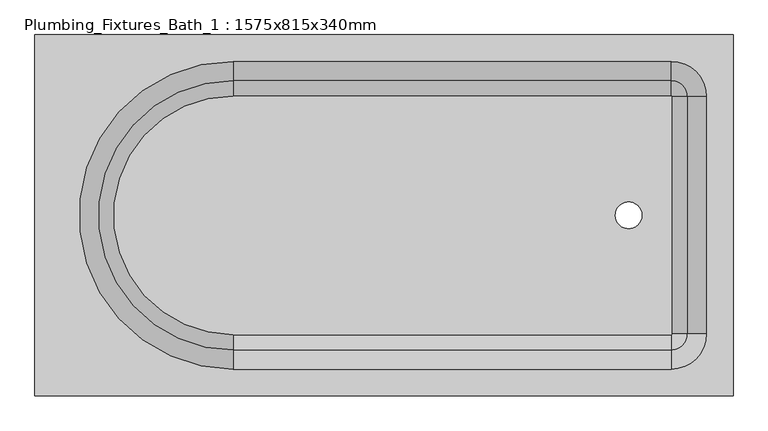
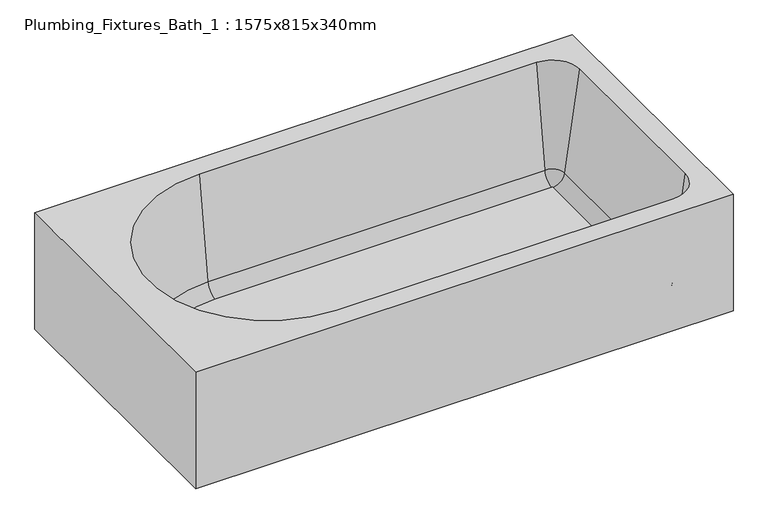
"""IFC4 building model written with IfcOpenShell, lengths in millimetres: flow terminal geometry, Plumbing_Fixtures_Bath_1 : 1575x815x340mm."""

from ifc_helpers import new_model, si_unit, point, frame, origin, place, context, project, spatial, polyline, circle_curve, ellipse_curve, trimmed, source, transform, mapped, element, save
from ifc_brep_helpers import plane_surface, revolved_surface, advanced_brep


def plumbing_fixtures_bath_1_1575x815x340mm_1df68492(model_context):
    return source(origin(), model_context, "Body", "AdvancedBrep", [
        advanced_brep(
        [(-340.0, 269.6255814, 20.0), (-340.0, -269.6255814, 20.0), (647.5, -269.6255814, 20.0), (649.6255814, -267.5, 20.0), (649.6255814, 267.5, 20.0), (647.5, 269.6255814, 20.0), (581.8337909, 0.0, 20.0), (521.8337909, 0.0, 20.0), (787.5, 407.5, 0.0), (787.5, -407.5, 0.0), (-787.5, -407.5, 0.0), (-787.5, 407.5, 0.0), (521.8337909, 0.0, 0.0), (581.8337909, 0.0, 0.0), (-787.5, 407.5, 360.0), (787.5, 407.5, 360.0), (-787.5, -407.5, 360.0), (787.5, -407.5, 360.0), (-340.0, -347.5, 360.0), (-340.0, 347.5, 360.0), (647.5, 347.5, 360.0), (727.5, 267.5, 360.0), (727.5, -267.5, 360.0), (647.5, -347.5, 360.0), (-340.0, -304.3563387, 53.0168987), (-340.0, 304.3563387, 53.0168987), (647.5, -304.3563387, 53.0168987), (684.3563387, -267.5, 53.0168987), (684.3563387, 267.5, 53.0168987), (647.5, 304.3563387, 53.0168987)],
        [
            (0, 1, circle_curve(frame((-340.0, 0.0, 20.0), z_axis=(0.0, 0.0, 1.0), x_axis=(0.0, 1.0, 0.0)), 269.6255814)),
            (1, 2),
            (2, 3, circle_curve(frame((647.5, -267.5, 20.0), z_axis=(0.0, 0.0, 1.0), x_axis=(0.0, -1.0, 0.0)), 2.1255814)),
            (3, 4),
            (4, 5, circle_curve(frame((647.5, 267.5, 20.0), z_axis=(0.0, 0.0, 1.0), x_axis=(1.0, 0.0, 0.0)), 2.1255814)),
            (5, 0),
            (6, 7, circle_curve(frame((551.8337909, 0.0, 20.0), z_axis=(0.0, 0.0, -1.0), x_axis=(1.0, 0.0, 0.0)), 30.0)),
            (7, 6, circle_curve(frame((551.8337909, 0.0, 20.0), z_axis=(0.0, 0.0, -1.0), x_axis=(1.0, 0.0, 0.0)), 30.0)),
            (8, 9),
            (9, 10),
            (10, 11),
            (11, 8),
            (12, 13, circle_curve(frame((551.8337909, 0.0, 0.0), z_axis=(0.0, 0.0, 1.0), x_axis=(1.0, 0.0, 0.0)), 30.0)),
            (13, 12, circle_curve(frame((551.8337909, 0.0, 0.0), z_axis=(0.0, 0.0, 1.0), x_axis=(1.0, 0.0, 0.0)), 30.0)),
            (11, 14),
            (14, 15),
            (15, 8),
            (10, 16),
            (16, 14),
            (9, 17),
            (17, 16),
            (15, 17),
            (18, 19, circle_curve(frame((-340.0, 0.0, 360.0), z_axis=(0.0, 0.0, -1.0), x_axis=(0.0, 1.0, 0.0)), 347.5)),
            (19, 20),
            (20, 21, circle_curve(frame((647.5, 267.5, 360.0), z_axis=(0.0, 0.0, -1.0), x_axis=(1.0, 0.0, 0.0)), 80.0)),
            (21, 22),
            (22, 23, circle_curve(frame((647.5, -267.5, 360.0), z_axis=(0.0, 0.0, -1.0), x_axis=(0.0, -1.0, 0.0)), 80.0)),
            (23, 18),
            (24, 25, circle_curve(frame((-340.0, 0.0, 53.0168987), z_axis=(0.0, 0.0, -1.0), x_axis=(0.0, 1.0, 0.0)), 304.3563387)),
            (25, 19),
            (18, 24),
            (24, 1, circle_curve(frame((-340.0, -266.1991388, 58.3795434), z_axis=(1.0, 0.0, 0.0), x_axis=(0.0, 1.0, 0.0)), 38.5321925)),
            (0, 25, circle_curve(frame((-340.0, 266.1991388, 58.3795434), z_axis=(1.0, 0.0, 0.0), x_axis=(0.0, -1.0, 0.0)), 38.5321925)),
            (23, 26),
            (26, 24),
            (26, 2, circle_curve(frame((647.5, -266.1991388, 58.3795434), z_axis=(1.0, 0.0, 0.0), x_axis=(0.0, 1.0, 0.0)), 38.5321925)),
            (22, 27),
            (27, 26, circle_curve(frame((647.5, -267.5, 53.0168987), z_axis=(0.0, 0.0, -1.0), x_axis=(0.0, -1.0, 0.0)), 36.8563387)),
            (27, 3, circle_curve(frame((646.1991388, -267.5, 58.3795434), z_axis=(0.0, 1.0, 0.0), x_axis=(-1.0, 0.0, 0.0)), 38.5321925)),
            (21, 28),
            (28, 27),
            (28, 4, circle_curve(frame((646.1991388, 267.5, 58.3795434), z_axis=(0.0, 1.0, 0.0), x_axis=(-1.0, 0.0, 0.0)), 38.5321925)),
            (20, 29),
            (29, 28, circle_curve(frame((647.5, 267.5, 53.0168987), z_axis=(0.0, 0.0, -1.0), x_axis=(1.0, 0.0, 0.0)), 36.8563387)),
            (29, 5, circle_curve(frame((647.5, 266.1991388, 58.3795434), z_axis=(-1.0, 0.0, 0.0), x_axis=(0.0, -1.0, 0.0)), 38.5321925)),
            (25, 29),
            (12, 7),
            (6, 13),
        ],
        [
            plane_surface(frame((-787.5, 407.5, 20.0), z_axis=(0.0, 0.0, 1.0), x_axis=(-1.0, 0.0, 0.0))),
            plane_surface(frame((-787.5, 407.5, 0.0), z_axis=(0.0, 0.0, -1.0), x_axis=(1.0, 0.0, 0.0))),
            plane_surface(frame((787.5, 407.5, 20.0), z_axis=(0.0, 1.0, 0.0), x_axis=(0.0, 0.0, -1.0))),
            plane_surface(frame((-787.5, 407.5, 20.0), z_axis=(-1.0, 0.0, 0.0), x_axis=(0.0, 0.0, -1.0))),
            plane_surface(frame((-787.5, -407.5, 20.0), z_axis=(0.0, -1.0, 0.0), x_axis=(0.0, 0.0, -1.0))),
            plane_surface(frame((787.5, -407.5, 20.0), z_axis=(1.0, 0.0, 0.0), x_axis=(0.0, 0.0, -1.0))),
            plane_surface(frame((-787.5, 407.5, 360.0), z_axis=(0.0, 0.0, 1.0), x_axis=(-1.0, 0.0, 0.0))),
            revolved_surface(polyline([(-340.0, 347.5, 360.0), (-340.0, 304.3563387, 53.0168987)]), (-340.0, 0.0, 0.0), (0.0, 0.0, 1.0)),
            revolved_surface(trimmed(ellipse_curve(frame((-340.0, 266.1991388, 58.3795434), z_axis=(-1.0, 0.0, 0.0), x_axis=(0.0, -1.0, 0.0)), 38.5321925, 38.5321925), [point((-340.0, 304.3563387, 53.0168987))], [point((-340.0, 269.6255814, 20.0))], True, "CARTESIAN"), (-340.0, 0.0, 0.0), (0.0, 0.0, 1.0)),
            plane_surface(frame((-340.0, -347.5, 360.0), z_axis=(0.0, 0.9902680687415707, 0.13917310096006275), x_axis=(1.0, 0.0, 0.0))),
            revolved_surface(polyline([(647.5, -227.6669463, 58.3795434), (-340.0, -227.6669463, 58.3795434)]), (-340.0, -266.1991388, 58.3795434), (1.0, 0.0, 0.0)),
            revolved_surface(polyline([(647.5, -347.5, 360.0), (647.5, -304.3563387, 53.0168987)]), (647.5, -267.5, 0.0), (0.0, 0.0, 1.0)),
            revolved_surface(trimmed(ellipse_curve(frame((647.5, -266.1991388, 58.3795434), z_axis=(1.0, 0.0, 0.0), x_axis=(0.0, 1.0, 0.0)), 38.5321925, 38.5321925), [point((647.5, -304.3563387, 53.0168987))], [point((647.5, -269.6255814, 20.0))], True, "CARTESIAN"), (647.5, -267.5, 0.0), (0.0, 0.0, 1.0)),
            plane_surface(frame((727.5, -267.5, 360.0), z_axis=(-0.9902680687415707, 0.0, 0.13917310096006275), x_axis=(0.0, 1.0, 0.0))),
            revolved_surface(polyline([(607.6669463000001, 267.5, 58.3795434), (607.6669463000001, -267.5, 58.3795434)]), (646.1991388, -267.5, 58.3795434), (0.0, 1.0, 0.0)),
            revolved_surface(polyline([(727.5, 267.5, 360.0), (684.3563387, 267.5, 53.0168987)]), (647.5, 267.5, 0.0), (0.0, 0.0, 1.0)),
            revolved_surface(trimmed(ellipse_curve(frame((646.1991388, 267.5, 58.3795434), z_axis=(0.0, 1.0, 0.0), x_axis=(-1.0, 0.0, 0.0)), 38.5321925, 38.5321925), [point((684.3563387, 267.5, 53.0168987))], [point((649.6255814, 267.5, 20.0))], True, "CARTESIAN"), (647.5, 267.5, 0.0), (0.0, 0.0, 1.0)),
            plane_surface(frame((647.5, 347.5, 360.0), z_axis=(0.0, -0.9902680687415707, 0.13917310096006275), x_axis=(-1.0, 0.0, 0.0))),
            revolved_surface(polyline([(-340.0, 227.6669463, 58.3795434), (647.5, 227.6669463, 58.3795434)]), (647.5, 266.1991388, 58.3795434), (-1.0, 0.0, 0.0)),
            revolved_surface(polyline([(581.8337909, 0.0, 20.0), (581.8337909, 0.0, 0.0)]), (551.8337909, 0.0, 0.0), (0.0, 0.0, 1.0)),
        ],
        [
            (0, [[1, 2, 3, 4, 5, 6], [7, 8]]),
            (1, [[9, 10, 11, 12], [13, 14]]),
            (2, [[-12, 15, 16, 17]]),
            (3, [[-11, 18, 19, -15]]),
            (4, [[-10, 20, 21, -18]]),
            (5, [[-9, -17, 22, -20]]),
            (6, [[-16, -19, -21, -22], [23, 24, 25, 26, 27, 28]]),
            (7, [[29, 30, -23, 31]]),
            (8, [[-29, 32, -1, 33]]),
            (9, [[-31, -28, 34, 35]]),
            (10, [[-32, -35, 36, -2]]),
            (11, [[-34, -27, 37, 38]]),
            (12, [[-36, -38, 39, -3]]),
            (13, [[-37, -26, 40, 41]]),
            (14, [[-39, -41, 42, -4]]),
            (15, [[-40, -25, 43, 44]]),
            (16, [[-42, -44, 45, -5]]),
            (17, [[-30, 46, -43, -24]]),
            (18, [[-33, -6, -45, -46]]),
            (19, [[47, -7, 48, -13]]),
            (19, [[-47, -14, -48, -8]]),
        ],
    ),
    ])


if __name__ == "__main__":
    model = new_model("IFC4")
    model_context = context("Model", 3, world=origin())
    ifc_project = project(units=[si_unit("LENGTHUNIT", "METRE", prefix="MILLI")], contexts=[model_context])
    site = spatial("IfcSite", under=ifc_project)
    building = spatial("IfcBuilding", under=site)
    placement = place(None, origin())
    plumbing_fixtures_bath_1_1575x815x340mm_shape = plumbing_fixtures_bath_1_1575x815x340mm_1df68492(model_context)
    element("IfcFlowTerminal", 1, ObjectType="Plumbing_Fixtures_Bath_1 : 1575x815x340mm", at=placement, inside=building, context=model_context, shape_type="MappedRepresentation", body=[
        mapped(plumbing_fixtures_bath_1_1575x815x340mm_shape, transform((0.0, 0.0, 0.0), x_axis=(1.0, 0.0, 0.0), y_axis=(0.0, 1.0, 0.0), z_axis=(0.0, 0.0, 1.0))),
    ])
    save(model, "model.ifc")
